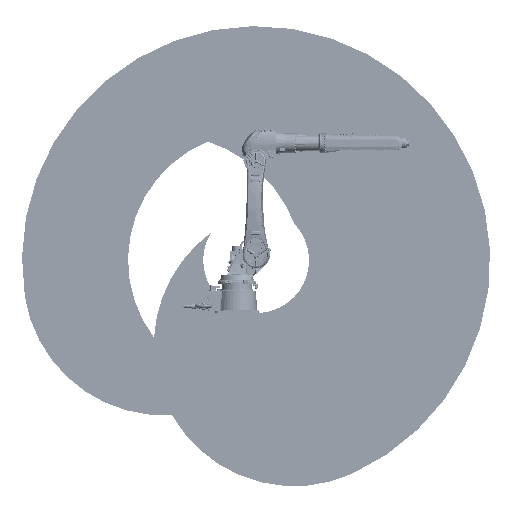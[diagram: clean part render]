
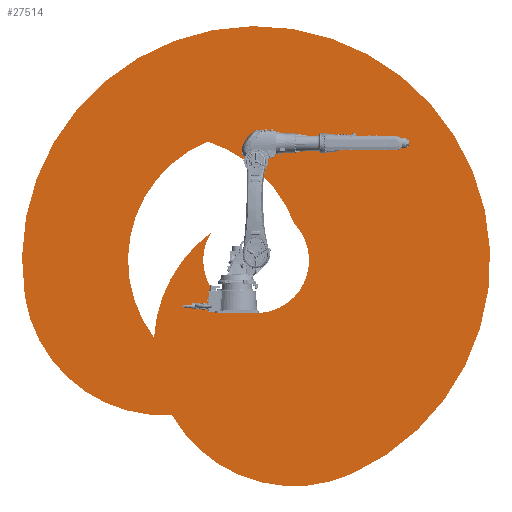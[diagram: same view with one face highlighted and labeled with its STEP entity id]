
A CAD part, front view. The second image highlights one B-rep face of the part: STEP entity #27514.
In plain terms, the highlighted planar face has unit normal (0, -1, 0) as drawn and (0, 0, 1) by its records, which use the part's own axes.
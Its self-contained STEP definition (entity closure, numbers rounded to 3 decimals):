
#7499=FACE_BOUND('',#41042,.T.);
#7500=FACE_BOUND('',#41043,.T.);
#9748=PLANE('',#112112);
#27514=ADVANCED_FACE('',(#7499,#7500),#9748,.T.);
#41042=EDGE_LOOP('',(#73346,#73347,#73348));
#41043=EDGE_LOOP('',(#73349,#73350,#73351,#73352));
#73346=ORIENTED_EDGE('',*,*,#97109,.T.);
#73347=ORIENTED_EDGE('',*,*,#97110,.T.);
#73348=ORIENTED_EDGE('',*,*,#97111,.T.);
#73349=ORIENTED_EDGE('',*,*,#97112,.T.);
#73350=ORIENTED_EDGE('',*,*,#97113,.T.);
#73351=ORIENTED_EDGE('',*,*,#97114,.T.);
#73352=ORIENTED_EDGE('',*,*,#97115,.T.);
#82732=VERTEX_POINT('',#256858);
#82733=VERTEX_POINT('',#256859);
#82734=VERTEX_POINT('',#256861);
#82735=VERTEX_POINT('',#256864);
#82736=VERTEX_POINT('',#256865);
#82737=VERTEX_POINT('',#256867);
#82738=VERTEX_POINT('',#256869);
#97109=EDGE_CURVE('',#82732,#82733,#102080,.T.);
#97110=EDGE_CURVE('',#82733,#82734,#102081,.T.);
#97111=EDGE_CURVE('',#82734,#82732,#102082,.T.);
#97112=EDGE_CURVE('',#82735,#82736,#102083,.T.);
#97113=EDGE_CURVE('',#82736,#82737,#102084,.T.);
#97114=EDGE_CURVE('',#82737,#82738,#102085,.T.);
#97115=EDGE_CURVE('',#82738,#82735,#102086,.T.);
#102080=CIRCLE('',#112105,1169.658);
#102081=CIRCLE('',#112106,1949.658);
#102082=CIRCLE('',#112107,1169.658);
#102083=CIRCLE('',#112108,440.659);
#102084=CIRCLE('',#112109,1169.658);
#102085=CIRCLE('',#112110,1066.627);
#102086=CIRCLE('',#112111,1169.658);
#112105=AXIS2_PLACEMENT_3D('',#256857,#137921,#137922);
#112106=AXIS2_PLACEMENT_3D('',#256860,#137923,#137924);
#112107=AXIS2_PLACEMENT_3D('',#256862,#137925,#137926);
#112108=AXIS2_PLACEMENT_3D('',#256863,#137927,#137928);
#112109=AXIS2_PLACEMENT_3D('',#256866,#137929,#137930);
#112110=AXIS2_PLACEMENT_3D('',#256868,#137931,#137932);
#112111=AXIS2_PLACEMENT_3D('',#256870,#137933,#137934);
#112112=AXIS2_PLACEMENT_3D('',#256871,#137935,#137936);
#137921=DIRECTION('',(0.,0.,1.));
#137922=DIRECTION('',(1.,0.,0.));
#137923=DIRECTION('',(0.,0.,1.));
#137924=DIRECTION('',(1.,0.,0.));
#137925=DIRECTION('',(0.,0.,1.));
#137926=DIRECTION('',(1.,0.,0.));
#137927=DIRECTION('',(0.,0.,-1.));
#137928=DIRECTION('',(1.,0.,0.));
#137929=DIRECTION('',(0.,0.,1.));
#137930=DIRECTION('',(1.,0.,0.));
#137931=DIRECTION('',(0.,0.,-1.));
#137932=DIRECTION('',(1.,0.,0.));
#137933=DIRECTION('',(0.,0.,-1.));
#137934=DIRECTION('',(1.,0.,0.));
#137935=DIRECTION('',(0.,0.,1.));
#137936=DIRECTION('',(1.,0.,0.));
#256857=CARTESIAN_POINT('',(12222.687,10419.724,0.));
#256858=CARTESIAN_POINT('',(11205.255,9842.722,0.));
#256859=CARTESIAN_POINT('',(12698.43,9351.188,0.));
#256860=CARTESIAN_POINT('',(11905.433,11132.289,0.));
#256861=CARTESIAN_POINT('',(9979.778,10827.295,0.));
#256862=CARTESIAN_POINT('',(11135.036,11010.27,0.));
#256863=CARTESIAN_POINT('',(11905.433,11132.289,0.));
#256864=CARTESIAN_POINT('',(12224.291,11436.444,0.));
#256865=CARTESIAN_POINT('',(11529.115,11361.561,0.));
#256866=CARTESIAN_POINT('',(12222.687,10419.724,0.));
#256867=CARTESIAN_POINT('',(11055.05,10488.441,0.));
#256868=CARTESIAN_POINT('',(11905.433,11132.289,0.));
#256869=CARTESIAN_POINT('',(11503.619,12120.336,0.));
#256870=CARTESIAN_POINT('',(11135.036,11010.27,0.));
#256871=CARTESIAN_POINT('',(12064.06,10776.006,0.));
